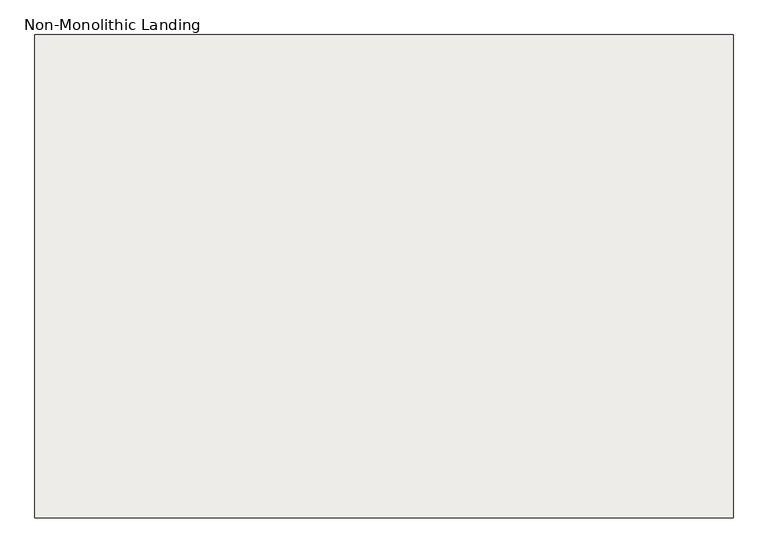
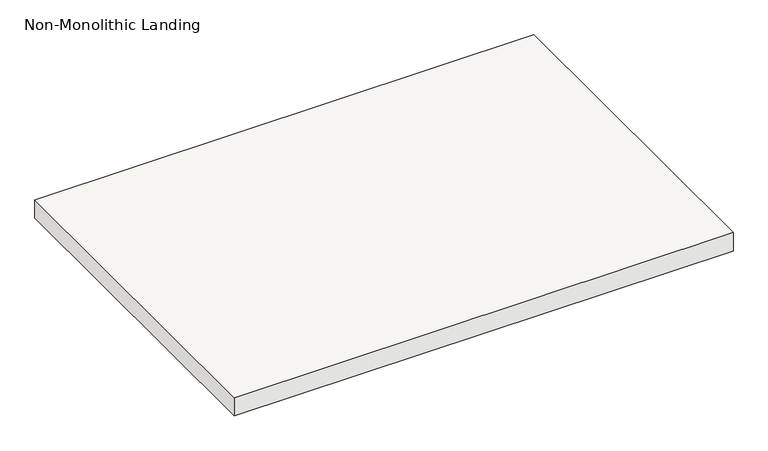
"""IFC4 building model written with IfcOpenShell, lengths in millimetres: slab geometry, Non-Monolithic Landing."""

from ifc_helpers import new_model, si_unit, frame, origin, place, context, project, spatial, polyline, outline, extrude, source, transform, mapped, element, save


def non_monolithic_landing_506cc850(model_context):
    return source(origin(), model_context, "Body", "SweptSolid", [
        extrude(outline(polyline([(136842.3240883, 33246.6812523), (138163.1240883, 33246.6812523), (138163.1240883, 32332.2812523), (136842.3240883, 32332.2812523), (136842.3240883, 33246.6812523)])), frame((0.0, 0.0, 2126.3428571), z_axis=(0.0, 0.0, 1.0), x_axis=(1.0, 0.0, 0.0)), (0.0, 0.0, 1.0), 50.8),
    ])


if __name__ == "__main__":
    model = new_model("IFC4")
    model_context = context("Model", 3, world=origin())
    ifc_project = project(units=[si_unit("LENGTHUNIT", "METRE", prefix="MILLI")], contexts=[model_context])
    site = spatial("IfcSite", under=ifc_project)
    building = spatial("IfcBuilding", under=site)
    placement = place(None, origin())
    non_monolithic_landing_shape = non_monolithic_landing_506cc850(model_context)
    element("IfcSlab", 1, ObjectType="Non-Monolithic Landing", at=placement, inside=building, context=model_context, shape_type="MappedRepresentation", body=[
        mapped(non_monolithic_landing_shape, transform((0.0, 0.0, 0.0), x_axis=(1.0, 0.0, 0.0), y_axis=(0.0, 1.0, 0.0), z_axis=(0.0, 0.0, 1.0))),
    ])
    save(model, "model.ifc")
